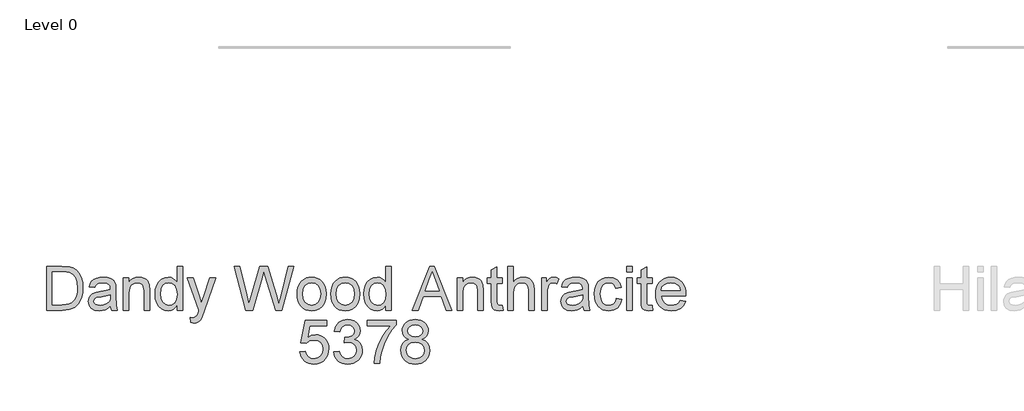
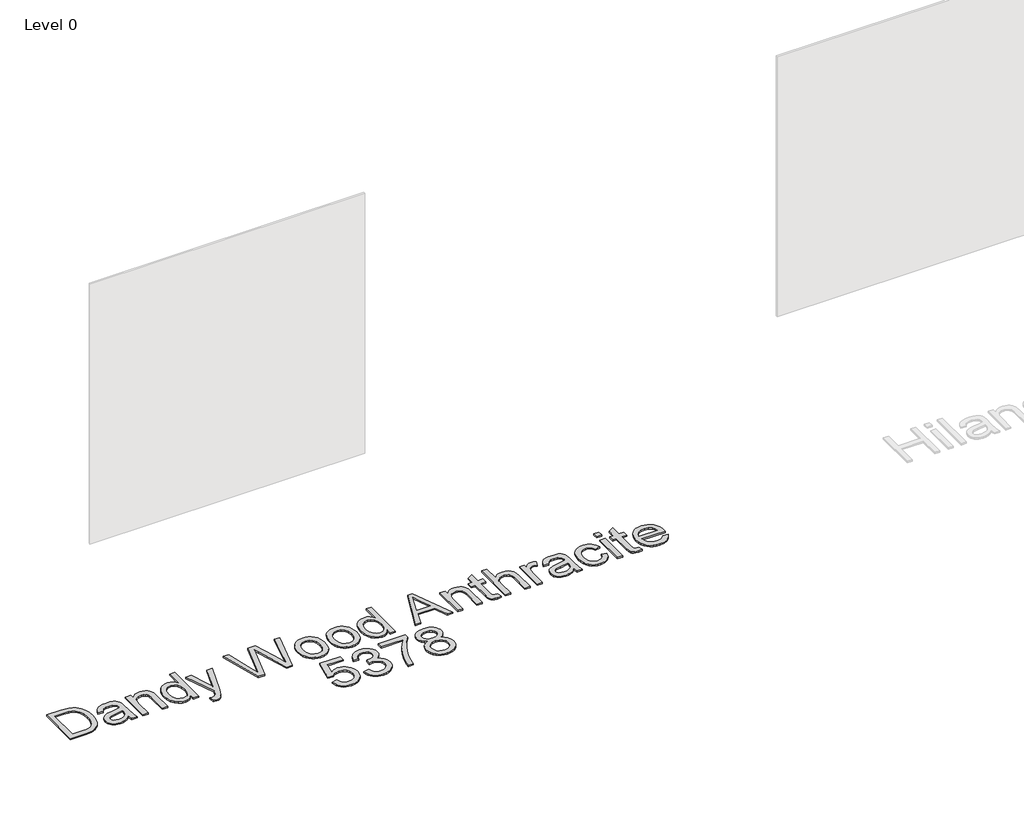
# One storey, part 4 of 16: 1 proxy.
"""IFC4 building model written with IfcOpenShell, lengths in millimetres."""

from ifc_helpers import new_model, si_unit, origin, origin_with_axes, place, context, project, spatial, polyline, outline, extrude, element, save

model = new_model("IFC4")

# Units and contexts
model_context = context("Model", 3, world=origin())
ifc_project = project(units=[si_unit("LENGTHUNIT", "METRE", prefix="MILLI")], contexts=[model_context])

# Site, building, storey
site = spatial("IfcSite", under=ifc_project)
building = spatial("IfcBuilding", under=site)
storey = spatial("IfcBuildingStorey", under=building, Name="Level 0", Elevation=0.0)

# Proxy
placement = place(None, origin())
element("IfcBuildingElementProxy", 1, Name="300mm Arial", ObjectType="300mm Arial", at=placement, inside=storey, context=model_context, shape_type="SweptSolid", body=[
    extrude(outline(polyline([(-11630.8739125, -17002.860494), (-11630.8739125, -16701.4915635), (-11526.9104607, -16701.4915635), (-11473.126113, -16705.8325711), (-11449.1034187, -16714.2018865), (-11428.8331208, -16727.390456), (-11407.9926057, -16750.3462925), (-11393.1485672, -16778.8939353), (-11384.2642171, -16812.4815615), (-11381.302767, -16850.557348), (-11383.3077239, -16882.9033724), (-11389.3225945, -16911.3682418), (-11398.4828562, -16935.6024682), (-11409.9239862, -16955.2565638), (-11423.0941616, -16970.771987), (-11437.4415595, -16982.590196), (-11453.9134758, -16991.3549846), (-11473.4572068, -16997.710146), (-11521.9072656, -17002.860494), (-11630.8739125, -17002.860494)]), holes=[polyline([(-11593.2027962, -16965.1893777), (-11526.5425787, -16965.1893777), (-11498.9698232, -16963.8282143), (-11478.0557317, -16959.7447241), (-11462.2735941, -16953.1780305), (-11450.0967001, -16944.3672567), (-11437.0092981, -16928.0608873), (-11427.1776518, -16906.9536578), (-11421.0248254, -16880.9535978), (-11418.9738833, -16849.9687368), (-11422.9929941, -16808.9131061), (-11435.0503265, -16778.5996297), (-11452.8650121, -16757.7775088), (-11474.1561826, -16745.1959446), (-11495.8244321, -16740.670996), (-11527.5726483, -16739.1626798), (-11593.2027962, -16739.1626798), (-11593.2027962, -16965.1893777)])]), origin_with_axes(), (0.0, 0.0, 1.0), 10.0),
    extrude(outline(polyline([(-11192.9471855, -16974.6071568), (-11210.9458121, -16990.0398064), (-11229.4778676, -17000.1381672), (-11248.9664163, -17005.7115794), (-11269.8345225, -17007.5693835), (-11301.3160242, -17003.0996173), (-11324.5385751, -16989.6903186), (-11338.8583818, -16969.3280501), (-11343.6316507, -16943.9993748), (-11341.8290289, -16928.3827841), (-11336.4211636, -16914.2009331), (-11328.0794393, -16902.0608273), (-11317.4752408, -16892.5694718), (-11291.0981018, -16880.2086368), (-11258.503757, -16874.5432541), (-11219.9865121, -16868.5835657), (-11193.1679147, -16861.5938078), (-11192.9471855, -16853.2060983), (-11195.5407535, -16836.3938912), (-11203.3214577, -16825.3942195), (-11220.7222761, -16817.2272392), (-11244.9656996, -16814.5049125), (-11267.4065013, -16816.3167313), (-11283.0782743, -16821.7521878), (-11293.7652462, -16831.8045633), (-11301.2516448, -16847.4671392), (-11338.9227612, -16842.7582497), (-11332.3836587, -16822.156858), (-11322.6255888, -16805.9700502), (-11308.7380434, -16793.590821), (-11289.8105148, -16784.4121652), (-11266.6615402, -16778.7283884), (-11240.1096572, -16776.8337961), (-11214.6430261, -16778.5076592), (-11194.4555016, -16783.5292485), (-11179.2343841, -16791.0800264), (-11168.6669738, -16800.3414556), (-11161.6588218, -16811.7917827), (-11157.1154791, -16825.9092543), (-11155.2760692, -16858.8714811), (-11155.2760692, -16905.7396473), (-11153.3630828, -16971.1858542), (-11145.8582901, -17002.860494), (-11183.5294064, -17002.860494), (-11192.9471855, -16974.6071568)]), holes=[polyline([(-11192.9471855, -16899.2649241), (-11253.7212911, -16910.8164188), (-11286.1316948, -16916.9232599), (-11300.8101865, -16926.8560738), (-11305.9605344, -16941.3506244), (-11303.1554342, -16952.5526311), (-11294.7401335, -16961.7312869), (-11280.8985735, -16967.8565221), (-11261.814695, -16969.8982672), (-11241.5811852, -16967.64499), (-11223.7021203, -16960.8851583), (-11209.2075697, -16950.9247533), (-11199.127603, -16939.069756), (-11194.6578367, -16926.8560738), (-11193.1679147, -16909.933502), (-11192.9471855, -16899.2649241)])]), origin_with_axes(), (0.0, 0.0, 1.0), 10.0),
    extrude(outline(polyline([(-11103.4782842, -17002.860494), (-11103.4782842, -16781.5426857), (-11065.8071679, -16781.5426857), (-11065.8071679, -16812.4447733), (-11052.719766, -16796.8649708), (-11037.0020077, -16785.7365404), (-11018.6538932, -16779.0594822), (-10997.6754224, -16776.8337961), (-10979.1065787, -16778.6272209), (-10962.1012335, -16784.0074951), (-10947.9193826, -16792.303234), (-10937.8210218, -16802.8430532), (-10926.5270446, -16830.5445674), (-10924.5404818, -16866.964885), (-10924.5404818, -17002.860494), (-10962.2115981, -17002.860494), (-10962.2115981, -16872.0416565), (-10966.5526056, -16838.7115477), (-10972.5582792, -16828.7879309), (-10981.8932848, -16821.0900002), (-10993.8586467, -16816.1511844), (-11007.7553891, -16814.5049125), (-11029.8191118, -16818.2021265), (-11048.6270788, -16829.2937687), (-11056.1433678, -16838.3482643), (-11061.5121456, -16850.7228949), (-11065.8071679, -16885.4325611), (-11065.8071679, -17002.860494), (-11103.4782842, -17002.860494)])), origin_with_axes(), (0.0, 0.0, 1.0), 10.0),
    extrude(outline(polyline([(-10736.1849003, -17002.860494), (-10736.1849003, -16967.3230932), (-10747.4558849, -16984.9308452), (-10761.1089054, -16997.507811), (-10777.1439619, -17005.0539904), (-10795.5610543, -17007.5693835), (-10819.9148424, -17003.9273518), (-10842.2084913, -16993.0012565), (-10861.0808376, -16975.5544529), (-10875.170718, -16952.350296), (-10883.9447036, -16924.3268851), (-10886.8693655, -16892.422319), (-10884.1746299, -16860.9132261), (-10876.090423, -16832.4575538), (-10862.625942, -16808.6739828), (-10843.7903838, -16791.181194), (-10821.0092913, -16780.4206456), (-10795.7082071, -16776.8337961), (-10777.2773191, -16779.3997731), (-10760.9801467, -16787.0977038), (-10747.1661778, -16798.8975188), (-10736.1849003, -16813.7691485), (-10736.1849003, -16701.4915635), (-10698.5137839, -16701.4915635), (-10698.5137839, -17002.860494), (-10736.1849003, -17002.860494)]), holes=[polyline([(-10849.1982492, -16892.2751662), (-10844.9492121, -16926.350236), (-10832.202101, -16950.5844625), (-10813.6792425, -16965.069816), (-10792.1029635, -16969.8982672), (-10770.5358816, -16965.2905452), (-10752.4820726, -16951.4673793), (-10740.2591933, -16928.1712519), (-10736.1849003, -16895.1446458), (-10740.3327697, -16859.037028), (-10752.7763782, -16834.0026582), (-10771.2900396, -16819.3793489), (-10793.6480679, -16814.5049125), (-10815.4450761, -16819.1862108), (-10833.305747, -16833.230106), (-10845.2251236, -16857.3539678), (-10849.1982492, -16892.2751662)])]), origin_with_axes(), (0.0, 0.0, 1.0), 10.0),
    extrude(outline(polyline([(-10642.0071095, -17087.6205057), (-10646.715999, -17051.3473409), (-10627.5861353, -17054.6582789), (-10609.7070703, -17050.5012124), (-10598.7441869, -17038.9129295), (-10588.443491, -17011.1746271), (-10585.500435, -17002.0511536), (-10665.5515572, -16781.5426857), (-10625.8203017, -16781.5426857), (-10583.3667195, -16904.4152721), (-10568.5778633, -16953.5643066), (-10553.789007, -16910.1542312), (-10510.1582024, -16781.5426857), (-10470.7212525, -16781.5426857), (-10547.7557423, -17008.1579947), (-10567.7685229, -17057.3070293), (-10578.0140364, -17072.9971964), (-10589.6207134, -17083.8681093), (-10603.1035885, -17090.2140737), (-10618.9776966, -17092.3293952), (-10642.0071095, -17087.6205057)])), origin_with_axes(), (0.0, 0.0, 1.0), 10.0),
    extrude(outline(polyline([(-10263.1622309, -17002.860494), (-10345.3470686, -16701.4915635), (-10306.4987299, -16701.4915635), (-10258.8212233, -16899.5592297), (-10244.1059435, -16960.7012173), (-10228.3605941, -16906.622564), (-10168.6165581, -16701.4915635), (-10112.6249184, -16701.4915635), (-10069.214843, -16850.189466), (-10050.6184081, -16905.3717653), (-10036.9148038, -16960.7012173), (-10022.6409824, -16901.3250633), (-9974.5220174, -16701.4915635), (-9935.6736787, -16701.4915635), (-10017.9320929, -17002.860494), (-10058.1783831, -17002.860494), (-10130.430407, -16770.359073), (-10140.5103737, -16737.9118811), (-10151.8411391, -16776.9809489), (-10217.6920163, -17002.860494), (-10263.1622309, -17002.860494)])), origin_with_axes(), (0.0, 0.0, 1.0), 10.0),
    extrude(outline(polyline([(-9912.1292311, -16892.2015898), (-9910.0920845, -16863.5389839), (-9903.9806449, -16838.8403064), (-9893.7949121, -16818.1055575), (-9879.5348863, -16801.334737), (-9865.1782914, -16790.6155754), (-9849.3317745, -16782.9590314), (-9831.9953355, -16778.3651049), (-9813.1689744, -16776.8337961), (-9792.3859409, -16778.698498), (-9773.5940687, -16784.2926036), (-9756.7933579, -16793.6161129), (-9741.9838083, -16806.669026), (-9729.8965855, -16823.0098843), (-9721.2628549, -16842.1972296), (-9716.0826166, -16864.2310619), (-9714.3558705, -16889.1113811), (-9717.409291, -16927.1687735), (-9726.5695527, -16956.1394806), (-9741.569941, -16977.8353213), (-9762.1437416, -16994.0681143), (-9786.5803032, -17004.1940662), (-9813.1689744, -17007.5693835), (-9834.2555105, -17005.7115794), (-9853.2221266, -17000.1381672), (-9870.0688227, -16990.8491468), (-9884.7955988, -16977.8445183), (-9896.7540629, -16961.3450108), (-9905.295823, -16941.5713536), (-9910.420879, -16918.5235466), (-9912.1292311, -16892.2015898)]), holes=[polyline([(-9874.4581148, -16892.1280134), (-9870.0987131, -16926.2214773), (-9857.0205082, -16950.5108861), (-9837.3388214, -16965.0514219), (-9813.1689744, -16969.8982672), (-9789.1094919, -16965.0238308), (-9769.4645933, -16950.4005215), (-9756.3863884, -16925.789216), (-9752.0269868, -16890.950791), (-9756.4139795, -16857.8506085), (-9769.5749579, -16833.8922936), (-9789.2474476, -16819.3517577), (-9813.1689744, -16814.5049125), (-9837.3388214, -16819.3333636), (-9857.0205082, -16833.8187172), (-9870.0987131, -16858.0529436), (-9874.4581148, -16892.1280134)])]), origin_with_axes(), (0.0, 0.0, 1.0), 10.0),
    extrude(outline(polyline([(-9681.3936437, -16892.2015898), (-9679.3564971, -16863.5389839), (-9673.2450575, -16838.8403064), (-9663.0593247, -16818.1055575), (-9648.7992989, -16801.334737), (-9634.442704, -16790.6155754), (-9618.5961871, -16782.9590314), (-9601.2597481, -16778.3651049), (-9582.433387, -16776.8337961), (-9561.6503535, -16778.698498), (-9542.8584813, -16784.2926036), (-9526.0577705, -16793.6161129), (-9511.2482209, -16806.669026), (-9499.1609981, -16823.0098843), (-9490.5272675, -16842.1972296), (-9485.3470292, -16864.2310619), (-9483.6202831, -16889.1113811), (-9486.6737036, -16927.1687735), (-9495.8339653, -16956.1394806), (-9510.8343537, -16977.8353213), (-9531.4081542, -16994.0681143), (-9555.8447158, -17004.1940662), (-9582.433387, -17007.5693835), (-9603.5199231, -17005.7115794), (-9622.4865392, -17000.1381672), (-9639.3332353, -16990.8491468), (-9654.0600114, -16977.8445183), (-9666.0184755, -16961.3450108), (-9674.5602356, -16941.5713536), (-9679.6852917, -16918.5235466), (-9681.3936437, -16892.2015898)]), holes=[polyline([(-9643.7225274, -16892.1280134), (-9639.3631257, -16926.2214773), (-9626.2849208, -16950.5108861), (-9606.6032341, -16965.0514219), (-9582.433387, -16969.8982672), (-9558.3739045, -16965.0238308), (-9538.729006, -16950.4005215), (-9525.650801, -16925.789216), (-9521.2913994, -16890.950791), (-9525.6783922, -16857.8506085), (-9538.8393706, -16833.8922936), (-9558.5118602, -16819.3517577), (-9582.433387, -16814.5049125), (-9606.6032341, -16819.3333636), (-9626.2849208, -16833.8187172), (-9639.3631257, -16858.0529436), (-9643.7225274, -16892.1280134)])]), origin_with_axes(), (0.0, 0.0, 1.0), 10.0),
    extrude(outline(polyline([(-9304.6824806, -17002.860494), (-9304.6824806, -16967.3230932), (-9315.9534652, -16984.9308452), (-9329.6064858, -16997.507811), (-9345.6415423, -17005.0539904), (-9364.0586346, -17007.5693835), (-9388.4124227, -17003.9273518), (-9410.7060716, -16993.0012565), (-9429.578418, -16975.5544529), (-9443.6682984, -16952.350296), (-9452.442284, -16924.3268851), (-9455.3669458, -16892.422319), (-9452.6722102, -16860.9132261), (-9444.5880034, -16832.4575538), (-9431.1235224, -16808.6739828), (-9412.2879642, -16791.181194), (-9389.5068717, -16780.4206456), (-9364.2057874, -16776.8337961), (-9345.7748995, -16779.3997731), (-9329.4777271, -16787.0977038), (-9315.6637582, -16798.8975188), (-9304.6824806, -16813.7691485), (-9304.6824806, -16701.4915635), (-9267.0113643, -16701.4915635), (-9267.0113643, -17002.860494), (-9304.6824806, -17002.860494)]), holes=[polyline([(-9417.6958295, -16892.2751662), (-9413.4467925, -16926.350236), (-9400.6996814, -16950.5844625), (-9382.1768229, -16965.069816), (-9360.6005439, -16969.8982672), (-9339.0334619, -16965.2905452), (-9320.979653, -16951.4673793), (-9308.7567737, -16928.1712519), (-9304.6824806, -16895.1446458), (-9308.8303501, -16859.037028), (-9321.2739586, -16834.0026582), (-9339.78762, -16819.3793489), (-9362.1456483, -16814.5049125), (-9383.9426565, -16819.1862108), (-9401.8033273, -16833.230106), (-9413.722704, -16857.3539678), (-9417.6958295, -16892.2751662)])]), origin_with_axes(), (0.0, 0.0, 1.0), 10.0),
    extrude(outline(polyline([(-9123.1695042, -17002.860494), (-9002.8720918, -16701.4915635), (-8970.7927818, -16701.4915635), (-8850.4953694, -17002.860494), (-8890.3002013, -17002.860494), (-8924.8075324, -16908.6827032), (-9048.9309176, -16908.6827032), (-9083.3646723, -17002.860494), (-9123.1695042, -17002.860494)]), holes=[polyline([(-9035.0985546, -16871.0115869), (-8938.566319, -16871.0115869), (-8965.7160103, -16796.9201531), (-8986.8324368, -16739.1626798), (-9005.5944185, -16790.44543), (-9035.0985546, -16871.0115869)])]), origin_with_axes(), (0.0, 0.0, 1.0), 10.0),
    extrude(outline(polyline([(-8814.9579686, -17002.860494), (-8814.9579686, -16781.5426857), (-8777.2868523, -16781.5426857), (-8777.2868523, -16812.4447733), (-8764.1994504, -16796.8649708), (-8748.4816921, -16785.7365404), (-8730.1335776, -16779.0594822), (-8709.1551068, -16776.8337961), (-8690.5862631, -16778.6272209), (-8673.5809179, -16784.0074951), (-8659.399067, -16792.303234), (-8649.3007062, -16802.8430532), (-8638.006729, -16830.5445674), (-8636.0201662, -16866.964885), (-8636.0201662, -17002.860494), (-8673.6912825, -17002.860494), (-8673.6912825, -16872.0416565), (-8678.03229, -16838.7115477), (-8684.0379636, -16828.7879309), (-8693.3729692, -16821.0900002), (-8705.3383311, -16816.1511844), (-8719.2350735, -16814.5049125), (-8741.2987962, -16818.2021265), (-8760.1067632, -16829.2937687), (-8767.6230522, -16838.3482643), (-8772.99183, -16850.7228949), (-8777.2868523, -16885.4325611), (-8777.2868523, -17002.860494), (-8814.9579686, -17002.860494)])), origin_with_axes(), (0.0, 0.0, 1.0), 10.0),
    extrude(outline(polyline([(-8504.1712591, -16971.4433716), (-8499.4623696, -17003.96414), (-8527.6421304, -17007.5693835), (-8545.7235305, -17006.005885), (-8559.2064056, -17001.3153896), (-8568.7345493, -16994.0865084), (-8574.951755, -16984.9078526), (-8578.3730575, -16969.1441091), (-8579.5134917, -16942.1599648), (-8579.5134917, -16819.213802), (-8607.766829, -16819.213802), (-8607.766829, -16781.5426857), (-8579.5134917, -16781.5426857), (-8579.5134917, -16727.758338), (-8541.8423754, -16705.6118419), (-8541.8423754, -16781.5426857), (-8504.1712591, -16781.5426857), (-8504.1712591, -16819.213802), (-8541.8423754, -16819.213802), (-8541.8423754, -16941.0563188), (-8539.8558126, -16960.4804881), (-8533.4178777, -16967.3598814), (-8520.5787961, -16969.8982672), (-8504.1712591, -16971.4433716)])), origin_with_axes(), (0.0, 0.0, 1.0), 10.0),
    extrude(outline(polyline([(-8466.5001428, -17002.860494), (-8466.5001428, -16701.4915635), (-8428.8290265, -16701.4915635), (-8428.8290265, -16812.2976205), (-8414.992065, -16796.7821973), (-8399.4536492, -16785.6997522), (-8382.2137792, -16779.0502852), (-8363.272455, -16776.8337961), (-8340.5189536, -16779.2526203), (-8320.9660255, -16786.5090926), (-8305.570164, -16798.0329961), (-8295.2878623, -16813.2541137), (-8289.4937208, -16834.1682051), (-8287.5623404, -16862.7710302), (-8287.5623404, -17002.860494), (-8325.2334567, -17002.860494), (-8325.2334567, -16866.6705794), (-8328.2316949, -16843.0893435), (-8337.2264097, -16826.9393239), (-8351.7209603, -16817.6135153), (-8371.2187061, -16814.5049125), (-8387.1387994, -16816.6018398), (-8402.0840055, -16822.8926219), (-8414.4632346, -16832.7702535), (-8422.6853972, -16845.6277292), (-8427.2931192, -16862.7158479), (-8428.8290265, -16885.2854083), (-8428.8290265, -17002.860494), (-8466.5001428, -17002.860494)])), origin_with_axes(), (0.0, 0.0, 1.0), 10.0),
    extrude(outline(polyline([(-8235.7645554, -17002.860494), (-8235.7645554, -16781.5426857), (-8202.8023287, -16781.5426857), (-8202.8023287, -16814.2841833), (-8190.6254346, -16795.3014723), (-8179.4050338, -16784.1178596), (-8168.1478447, -16778.654812), (-8155.8605861, -16776.8337961), (-8137.0986043, -16779.7400639), (-8118.042317, -16788.4588672), (-8130.6238812, -16822.2304343), (-8143.867633, -16816.4362929), (-8157.1113849, -16814.5049125), (-8168.3593769, -16816.3627165), (-8178.4117524, -16821.9361288), (-8186.5327474, -16830.8020848), (-8191.986598, -16842.5375205), (-8196.5667288, -16863.5803706), (-8198.0934391, -16886.5362071), (-8198.0934391, -17002.860494), (-8235.7645554, -17002.860494)])), origin_with_axes(), (0.0, 0.0, 1.0), 10.0),
    extrude(outline(polyline([(-7953.2311831, -16974.6071568), (-7971.2298098, -16990.0398064), (-7989.7618653, -17000.1381672), (-8009.250414, -17005.7115794), (-8030.1185201, -17007.5693835), (-8061.6000219, -17003.0996173), (-8084.8225728, -16989.6903186), (-8099.1423795, -16969.3280501), (-8103.9156484, -16943.9993748), (-8102.1130266, -16928.3827841), (-8096.7051613, -16914.2009331), (-8088.363437, -16902.0608273), (-8077.7592385, -16892.5694718), (-8051.3820995, -16880.2086368), (-8018.7877547, -16874.5432541), (-7980.2705098, -16868.5835657), (-7953.4519123, -16861.5938078), (-7953.2311831, -16853.2060983), (-7955.8247512, -16836.3938912), (-7963.6054554, -16825.3942195), (-7981.0062738, -16817.2272392), (-8005.2496973, -16814.5049125), (-8027.690499, -16816.3167313), (-8043.362272, -16821.7521878), (-8054.0492439, -16831.8045633), (-8061.5356425, -16847.4671392), (-8099.2067588, -16842.7582497), (-8092.6676564, -16822.156858), (-8082.9095864, -16805.9700502), (-8069.0220411, -16793.590821), (-8050.0945125, -16784.4121652), (-8026.9455379, -16778.7283884), (-8000.3936549, -16776.8337961), (-7974.9270238, -16778.5076592), (-7954.7394993, -16783.5292485), (-7939.5183818, -16791.0800264), (-7928.9509715, -16800.3414556), (-7921.9428195, -16811.7917827), (-7917.3994768, -16825.9092543), (-7915.5600668, -16858.8714811), (-7915.5600668, -16905.7396473), (-7913.6470805, -16971.1858542), (-7906.1422878, -17002.860494), (-7943.8134041, -17002.860494), (-7953.2311831, -16974.6071568)]), holes=[polyline([(-7953.2311831, -16899.2649241), (-8014.0052887, -16910.8164188), (-8046.4156925, -16916.9232599), (-8061.0941841, -16926.8560738), (-8066.2445321, -16941.3506244), (-8063.4394318, -16952.5526311), (-8055.0241312, -16961.7312869), (-8041.1825711, -16967.8565221), (-8022.0986926, -16969.8982672), (-8001.8651829, -16967.64499), (-7983.9861179, -16960.8851583), (-7969.4915673, -16950.9247533), (-7959.4116007, -16939.069756), (-7954.9418344, -16926.8560738), (-7953.4519123, -16909.933502), (-7953.2311831, -16899.2649241)])]), origin_with_axes(), (0.0, 0.0, 1.0), 10.0),
    extrude(outline(polyline([(-7722.4955958, -16922.8093718), (-7684.8244795, -16927.5182614), (-7695.3275104, -16961.0231141), (-7715.0643795, -16986.3425924), (-7742.1772825, -17002.2626857), (-7774.8084155, -17007.5693835), (-7795.9363383, -17005.7184772), (-7814.8799618, -17000.1657584), (-7831.6392859, -16990.9112269), (-7846.2143107, -16977.9548829), (-7858.0118265, -16961.5404481), (-7866.4386234, -16941.9116444), (-7871.4947016, -16919.0684718), (-7873.180061, -16893.0109302), (-7870.3013844, -16859.4876834), (-7861.6653545, -16830.4342028), (-7847.1340157, -16806.9725286), (-7826.5694122, -16790.2247008), (-7801.9673038, -16780.1815223), (-7775.3234503, -16776.8337961), (-7743.4924606, -16781.4323211), (-7718.0442236, -16795.2278959), (-7699.7880796, -16817.4847566), (-7689.533369, -16847.4671392), (-7727.2044853, -16852.1760288), (-7734.0378934, -16835.7409006), (-7744.6788801, -16823.9594797), (-7758.5388342, -16816.8685543), (-7775.0291447, -16814.5049125), (-7799.3737357, -16819.1586197), (-7818.6967375, -16833.1197414), (-7831.3058929, -16857.1424357), (-7835.5089447, -16891.9808606), (-7831.3978634, -16927.2883351), (-7819.0646195, -16951.3938029), (-7800.0911056, -16965.2721511), (-7776.0592143, -16969.8982672), (-7756.5522715, -16967.0103936), (-7740.5586017, -16958.3467726), (-7728.9243336, -16943.6866751), (-7722.4955958, -16922.8093718)])), origin_with_axes(), (0.0, 0.0, 1.0), 10.0),
    extrude(outline(polyline([(-7651.8622527, -17002.860494), (-7651.8622527, -16781.5426857), (-7614.1911364, -16781.5426857), (-7614.1911364, -17002.860494), (-7651.8622527, -17002.860494)])), origin_with_axes(), (0.0, 0.0, 1.0), 10.0),
    extrude(outline(polyline([(-7651.8622527, -16739.1626798), (-7651.8622527, -16701.4915635), (-7614.1911364, -16701.4915635), (-7614.1911364, -16739.1626798), (-7651.8622527, -16739.1626798)])), origin_with_axes(), (0.0, 0.0, 1.0), 10.0),
    extrude(outline(polyline([(-7477.6333398, -16971.4433716), (-7472.9244502, -17003.96414), (-7501.1042111, -17007.5693835), (-7519.1856111, -17006.005885), (-7532.6684863, -17001.3153896), (-7542.1966299, -16994.0865084), (-7548.4138356, -16984.9078526), (-7551.8351382, -16969.1441091), (-7552.9755724, -16942.1599648), (-7552.9755724, -16819.213802), (-7581.2289096, -16819.213802), (-7581.2289096, -16781.5426857), (-7552.9755724, -16781.5426857), (-7552.9755724, -16727.758338), (-7515.3044561, -16705.6118419), (-7515.3044561, -16781.5426857), (-7477.6333398, -16781.5426857), (-7477.6333398, -16819.213802), (-7515.3044561, -16819.213802), (-7515.3044561, -16941.0563188), (-7513.3178933, -16960.4804881), (-7506.8799584, -16967.3598814), (-7494.0408768, -16969.8982672), (-7477.6333398, -16971.4433716)])), origin_with_axes(), (0.0, 0.0, 1.0), 10.0),
    extrude(outline(polyline([(-7285.0103271, -16936.9360404), (-7248.0749748, -16941.64493), (-7261.383106, -16969.4752029), (-7282.6190941, -16990.2789297), (-7311.3046927, -17003.2467701), (-7346.9616551, -17007.5693835), (-7370.3359574, -17005.7046817), (-7391.1626768, -17000.1105761), (-7409.4418134, -16990.7870668), (-7425.1733673, -16977.7341537), (-7437.8239094, -16961.3151204), (-7446.8600109, -16941.8932503), (-7452.2816718, -16919.4685435), (-7454.0888921, -16894.0409998), (-7452.2632777, -16867.7512327), (-7446.7864345, -16844.5792656), (-7437.6583625, -16824.5250983), (-7424.8790617, -16807.5887309), (-7409.1888946, -16794.133447), (-7391.3282237, -16784.5225298), (-7371.2970491, -16778.7559796), (-7349.0953707, -16776.8337961), (-7327.6087629, -16778.751381), (-7308.1776957, -16784.5041357), (-7290.8021693, -16794.0920602), (-7275.4821834, -16807.5151545), (-7262.9764949, -16824.4147337), (-7254.0438602, -16844.4321128), (-7248.6842793, -16867.5672917), (-7246.8977524, -16893.8202706), (-7247.1184816, -16903.9738137), (-7416.4177758, -16903.9738137), (-7409.8970674, -16932.1719686), (-7394.7495263, -16952.902119), (-7372.8881387, -16965.6492302), (-7346.2258911, -16969.8982672), (-7326.1763224, -16967.9300985), (-7309.2905388, -16962.0255925), (-7295.5685404, -16951.8168672), (-7285.0103271, -16936.9360404)]), holes=[polyline([(-7416.4177758, -16866.3026974), (-7284.5688687, -16866.3026974), (-7289.6640343, -16846.4002814), (-7299.6520305, -16832.1632482), (-7321.6145856, -16818.9194964), (-7349.2425235, -16814.5049125), (-7374.6355782, -16818.0273826), (-7395.6324431, -16828.5947929), (-7410.2281612, -16845.0667092), (-7416.4177758, -16866.3026974)])]), origin_with_axes(), (0.0, 0.0, 1.0), 10.0),
    extrude(outline(polyline([(-9893.2936729, -17288.7338254), (-9855.6225566, -17284.0249358), (-9848.7063751, -17306.6404815), (-9836.6398456, -17322.8364863), (-9819.4781506, -17332.5761621), (-9797.2764722, -17335.8227207), (-9770.2739337, -17331.3069693), (-9750.040424, -17317.7597148), (-9737.4036774, -17296.7444558), (-9733.1914286, -17269.8246908), (-9737.136963, -17244.4776213), (-9748.9735662, -17225.0902402), (-9768.7932087, -17212.7845875), (-9796.687861, -17208.6827032), (-9814.9623991, -17210.3197781), (-9829.7604523, -17215.2310027), (-9850.9136671, -17232.2271509), (-9888.5847834, -17227.5182614), (-9855.6225566, -17072.1249066), (-9709.6469809, -17072.1249066), (-9709.6469809, -17109.7960229), (-9825.1619274, -17109.7960229), (-9841.2751588, -17192.790201), (-9814.3645908, -17176.4562404), (-9786.1664359, -17171.0115869), (-9767.8206207, -17172.6992456), (-9750.969326, -17177.7622215), (-9735.612552, -17186.2005148), (-9721.7502986, -17198.0141254), (-9710.2746796, -17212.4810848), (-9702.0778089, -17228.8794248), (-9697.1596864, -17247.2091452), (-9695.5203123, -17267.470246), (-9701.4248183, -17305.1413624), (-9708.8054508, -17321.9351754), (-9719.1383364, -17337.3678251), (-9734.7917153, -17353.1729553), (-9753.0570563, -17364.4623341), (-9773.9343596, -17371.2359613), (-9797.423625, -17373.4938371), (-9834.4233566, -17367.6904986), (-9850.1020274, -17360.4363255), (-9863.8999015, -17350.2804832), (-9875.380119, -17337.7288093), (-9884.1058201, -17323.2871418), (-9893.2936729, -17288.7338254)])), origin_with_axes(), (0.0, 0.0, 1.0), 10.0),
    extrude(outline(polyline([(-9662.5580855, -17288.7338254), (-9624.8869692, -17284.0249358), (-9616.4532745, -17307.6981422), (-9604.1016365, -17323.6826149), (-9587.22505, -17332.7876943), (-9565.2165096, -17335.8227207), (-9539.3911935, -17331.6472601), (-9519.4519894, -17319.1208782), (-9506.7048783, -17300.4324728), (-9502.4558412, -17277.7709419), (-9506.6680901, -17256.2590422), (-9519.3048366, -17238.8122386), (-9538.4347004, -17227.2515469), (-9562.1263008, -17223.397983), (-9588.5402281, -17227.5182614), (-9584.3463734, -17189.8471451), (-9578.3131086, -17190.2886035), (-9555.7435482, -17187.5846708), (-9535.5652208, -17179.4728728), (-9521.3281876, -17165.7508744), (-9516.5825098, -17146.2163404), (-9520.0222065, -17129.9467592), (-9530.3412965, -17116.7489926), (-9546.0866459, -17108.0025982), (-9565.8051208, -17105.0871334), (-9585.5603839, -17108.0301893), (-9601.7104035, -17116.8593572), (-9613.5010215, -17131.574637), (-9620.1780797, -17152.1760288), (-9657.849196, -17147.4671392), (-9646.7575538, -17113.6403898), (-9627.0206848, -17088.3852908), (-9600.0181463, -17072.6583355), (-9567.129496, -17067.4160171), (-9543.4470925, -17070.0003881), (-9521.6960696, -17077.7535011), (-9503.3571521, -17089.9855775), (-9489.9110652, -17106.0068384), (-9481.6613115, -17124.4653175), (-9478.9113935, -17144.0090485), (-9481.5233557, -17162.2192072), (-9489.3592422, -17178.7371088), (-9502.3086884, -17192.8085951), (-9520.2613298, -17203.6795081), (-9496.6800939, -17213.2076518), (-9479.2056991, -17229.4312477), (-9468.3899685, -17251.4673793), (-9464.7847249, -17278.4331295), (-9466.5873467, -17297.5445992), (-9471.995212, -17315.1477526), (-9481.0083209, -17331.2425899), (-9493.6266733, -17345.829111), (-9508.9995422, -17357.9324287), (-9526.2762004, -17366.5776555), (-9545.4566479, -17371.7647917), (-9566.5408848, -17373.4938371), (-9585.5971721, -17372.0177105), (-9602.9612023, -17367.589331), (-9618.6329753, -17360.2086985), (-9632.6124911, -17349.875813), (-9644.3341312, -17337.1976797), (-9653.232277, -17322.781304), (-9659.3069284, -17306.6266859), (-9662.5580855, -17288.7338254)])), origin_with_axes(), (0.0, 0.0, 1.0), 10.0),
    extrude(outline(polyline([(-9431.8224982, -17109.7960229), (-9431.8224982, -17072.1249066), (-9234.0491375, -17072.1249066), (-9234.0491375, -17102.5855358), (-9262.2380954, -17138.2608923), (-9290.1511418, -17183.6299393), (-9314.7716443, -17234.5540045), (-9333.0829706, -17286.8944154), (-9342.0592913, -17326.0554538), (-9347.0624865, -17368.7849475), (-9384.7336028, -17368.7849475), (-9380.6593097, -17329.9550029), (-9369.7608056, -17283.8042066), (-9352.332396, -17234.8850983), (-9328.6683867, -17187.7502177), (-9301.0404489, -17145.1402856), (-9271.7202539, -17109.7960229), (-9431.8224982, -17109.7960229)])), origin_with_axes(), (0.0, 0.0, 1.0), 10.0),
    extrude(outline(polyline([(-9146.1989171, -17202.7965913), (-9166.3680475, -17192.8637774), (-9180.5223072, -17179.3992964), (-9188.8824256, -17162.6790597), (-9191.6691317, -17142.9789789), (-9190.1516185, -17127.6153071), (-9185.5990788, -17113.5300252), (-9178.0115126, -17100.7231332), (-9167.38892, -17089.1946312), (-9154.2417372, -17079.6664875), (-9139.0804005, -17072.8606706), (-9102.7152653, -17067.4160171), (-9066.1294008, -17072.9894293), (-9050.8025172, -17079.9561946), (-9037.4529993, -17089.709666), (-9026.6372687, -17101.4634957), (-9018.9117468, -17114.4313361), (-9014.2764336, -17128.613187), (-9012.7313292, -17144.0090485), (-9015.4812472, -17163.0745329), (-9023.7310009, -17179.509661), (-9037.572561, -17192.8913686), (-9057.0978979, -17202.7965913), (-9033.9121351, -17214.7435591), (-9017.0355486, -17232.3375155), (-9006.7440498, -17254.732332), (-9003.3135502, -17281.0818799), (-9005.0150044, -17299.8714528), (-9010.1193671, -17317.0975272), (-9018.6266382, -17332.7601031), (-9030.5368178, -17346.8591806), (-9045.2245065, -17358.5118428), (-9062.0643048, -17366.8351729), (-9081.0562128, -17371.829171), (-9102.2002305, -17373.4938371), (-9123.3442481, -17371.8222732), (-9142.3361561, -17366.8075818), (-9159.1759545, -17358.4497627), (-9173.8636431, -17346.748816), (-9185.7738227, -17332.5508703), (-9194.2810939, -17316.702054), (-9199.3854566, -17299.2023674), (-9201.0869108, -17280.0518103), (-9197.5184554, -17252.6813898), (-9186.8130894, -17230.1670117), (-9169.5226356, -17213.2812282), (-9146.1989171, -17202.7965913)]), holes=[polyline([(-9153.9980154, -17144.0826249), (-9150.6594863, -17160.52695), (-9140.643899, -17173.6603373), (-9124.245559, -17182.268776), (-9101.7587721, -17185.1382555), (-9079.796217, -17182.2871701), (-9063.6461974, -17173.7339137), (-9053.7133835, -17161.0419848), (-9050.4024456, -17145.774882), (-9053.8237481, -17129.9283651), (-9064.0876558, -17116.822569), (-9080.4584046, -17108.0209923), (-9102.2002305, -17105.0871334), (-9124.0800121, -17107.9566129), (-9140.4231698, -17116.5650516), (-9150.604304, -17129.1834041), (-9153.9980154, -17144.0826249)]), polyline([(-9163.4157945, -17278.7274351), (-9157.1250124, -17307.0911369), (-9148.4154061, -17319.2588339), (-9134.8681516, -17328.317928), (-9118.6445557, -17333.9465226), (-9101.9059249, -17335.8227207), (-9076.2645498, -17331.8771864), (-9057.0243215, -17320.0405832), (-9044.9945802, -17302.1155329), (-9040.9846665, -17279.9046575), (-9045.1233389, -17257.316703), (-9057.5393563, -17238.9961796), (-9077.221043, -17226.8560738), (-9103.1567237, -17222.8093718), (-9128.4394138, -17226.8008915), (-9147.4865041, -17238.7754504), (-9159.4334719, -17256.7464859), (-9163.4157945, -17278.7274351)])]), origin_with_axes(), (0.0, 0.0, 1.0), 10.0),
])

save(model, "model.ifc")
